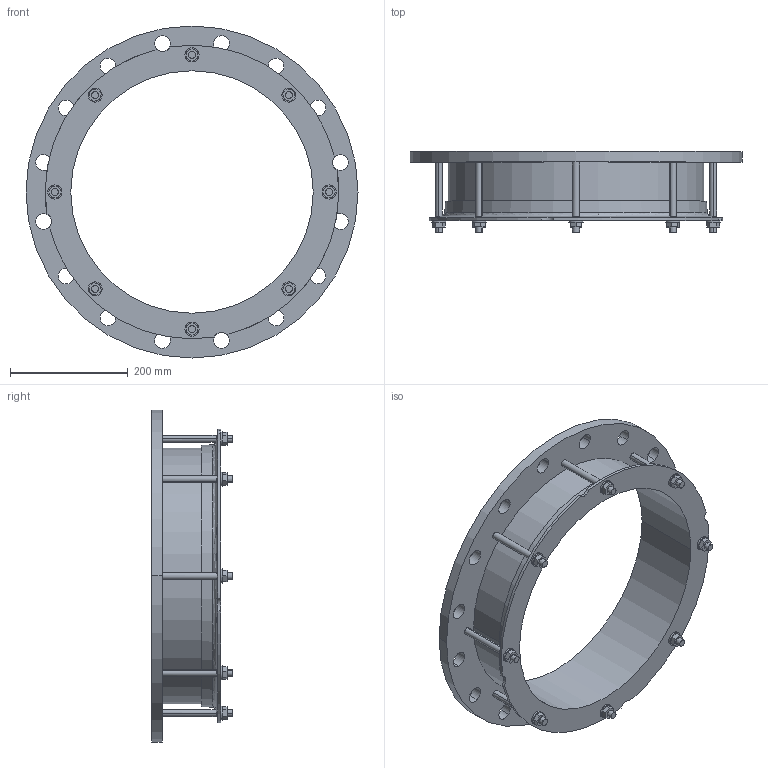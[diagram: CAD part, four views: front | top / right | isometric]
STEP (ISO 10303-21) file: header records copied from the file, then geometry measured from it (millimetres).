
FILE_DESCRIPTION((''),'2;1');
FILE_NAME('409X400PN10_4NOT','2019-01-16T',('mfairey'),('Glynwed Pipe Systems'),'CREO PARAMETRIC BY PTC INC, 2016130','CREO PARAMETRIC BY PTC INC, 2016130','');
FILE_SCHEMA(('CONFIG_CONTROL_DESIGN'));
Length unit declared in the file: millimetre
Products named in the file (1): 409X400PN10_4NOT
Bounding box: 565 x 137.45 x 565 mm (x, y, z)
Volume: 4051992.7 mm3; surface area: 683108 mm2
Topology: 1 solids, 1 shells, 176 faces, 466 edges, 310 vertices
Faces by surface type: cylinder 94, plane 76, cone 4, torus 2
Entity records: 6132 total; most frequent: CARTESIAN_POINT 1508, DIRECTION 962, ORIENTED_EDGE 932, EDGE_CURVE 466, AXIS2_PLACEMENT_3D 360, VERTEX_POINT 310, EDGE_LOOP 244, VECTOR 242
